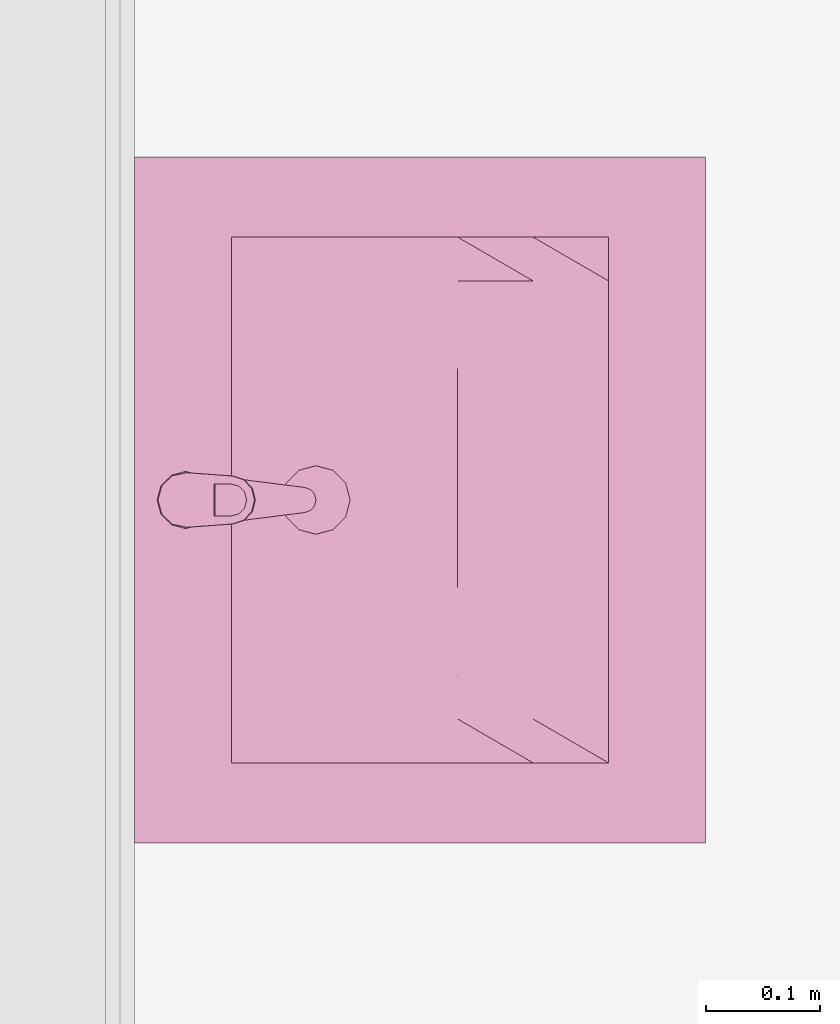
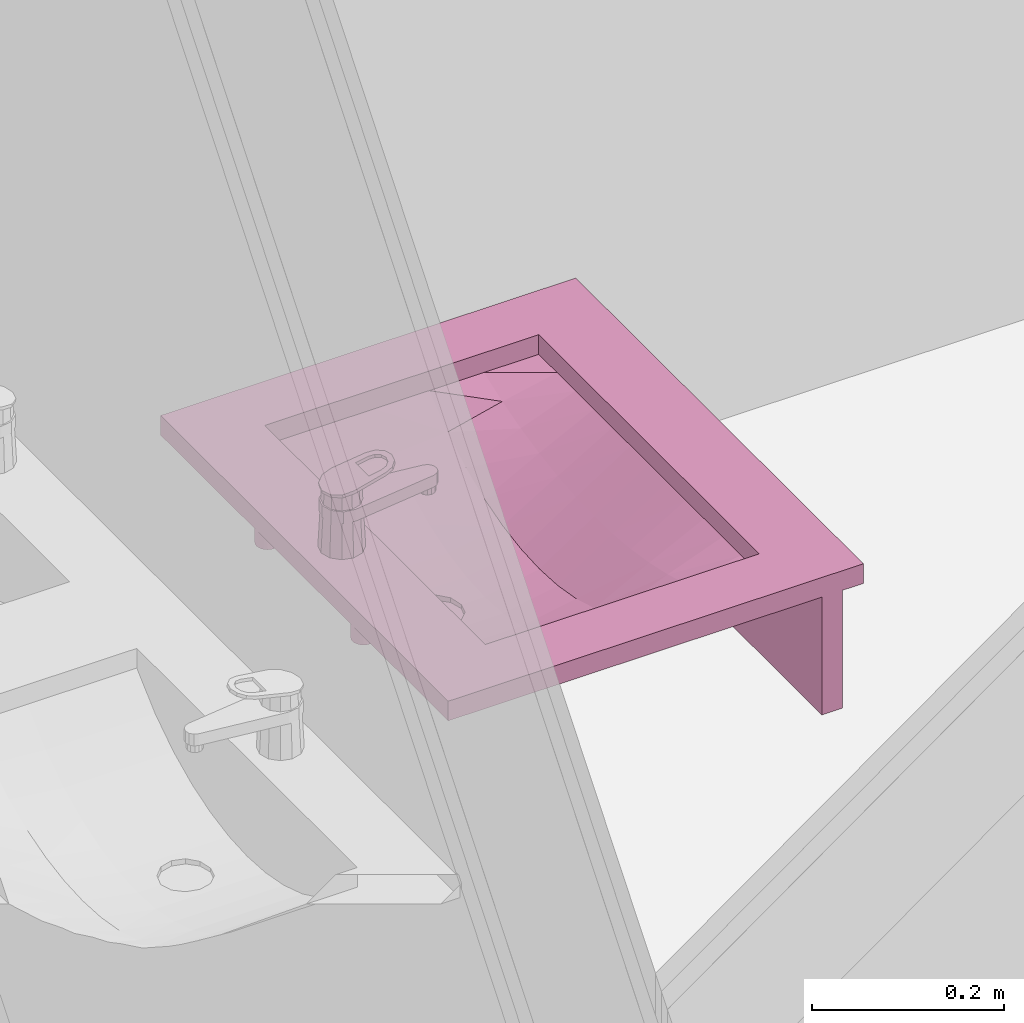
# One storey, part 53 of 54: 1 furnishing.
"""IFC2X3 building model written with IfcOpenShell, lengths in millimetres."""

from ifc_helpers import new_model, entity, si_unit, converted_unit, derived_unit, money_unit, direction, frame, origin_with_axes, place, context, subcontext, project, spatial, open_shell, faceted_brep, surface_model, source, transform, mapped, type_object, type_shapes, element, save


model = new_model("IFC2X3")

# Units and contexts
model_context = context("Model", 3, precision=0.01, world=origin_with_axes(), true_north=direction((0.0, 1.0)))
body_context = subcontext(model_context, "Body", "Model", "MODEL_VIEW")
ifc_project = project(units=[si_unit("LENGTHUNIT", "METRE", prefix="MILLI"), si_unit("AREAUNIT", "SQUARE_METRE"), si_unit("VOLUMEUNIT", "CUBIC_METRE"), converted_unit("PLANEANGLEUNIT", "DEGREE", entity("IfcPlaneAngleMeasure", 0.0174532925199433), si_unit("PLANEANGLEUNIT", "RADIAN"), dimensions=[0, 0, 0, 0, 0, 0, 0]), money_unit("EUR"), converted_unit("TIMEUNIT", "Year", entity("IfcTimeMeasure", 31557600.0), si_unit("TIMEUNIT", "SECOND"), dimensions=[0, 0, 1, 0, 0, 0, 0]), si_unit("MASSUNIT", "GRAM", prefix="KILO"), si_unit("THERMODYNAMICTEMPERATUREUNIT", "DEGREE_CELSIUS"), si_unit("LUMINOUSINTENSITYUNIT", "LUMEN"), si_unit("ENERGYUNIT", "JOULE", prefix="MEGA"), derived_unit("THERMALCONDUCTANCEUNIT", [(si_unit("POWERUNIT", "WATT"), 1), (si_unit("LENGTHUNIT", "METRE"), -1), (si_unit("THERMODYNAMICTEMPERATUREUNIT", "KELVIN"), -1)]), derived_unit("SPECIFICHEATCAPACITYUNIT", [(si_unit("ENERGYUNIT", "JOULE"), 1), (si_unit("MASSUNIT", "GRAM", prefix="KILO"), -1), (si_unit("THERMODYNAMICTEMPERATUREUNIT", "KELVIN"), -1)]), derived_unit("MASSDENSITYUNIT", [(si_unit("MASSUNIT", "GRAM", prefix="KILO"), 1), (si_unit("VOLUMEUNIT", "CUBIC_METRE"), -1)])], contexts=[model_context])

# Site, building, storey
site_placement = place(None, origin_with_axes())
site = spatial("IfcSite", under=ifc_project, at=site_placement, Name="<site naam>", CompositionType="ELEMENT")
building_placement = place(site_placement, origin_with_axes())
building = spatial("IfcBuilding", under=site, at=building_placement, Name="<Naam gebouw>", CompositionType="ELEMENT")
storey_placement = place(building_placement, frame((0.0, 0.0, 8500.0), z_axis=(0.0, 0.0, 1.0), x_axis=(1.0, 0.0, 0.0)))
storey = spatial("IfcBuildingStorey", under=building, at=storey_placement, Name="02 2e verdieping", CompositionType="ELEMENT", Elevation=8500.0)

# Furnishing
furnishing_element_type = type_object("IfcFurnishingElementType", Name="Wasbak meervoudig 27")
shared_shape = source(origin_with_axes(), body_context, "Body", "SurfaceModel", [
    surface_model("IfcShellBasedSurfaceModel", [(-100.0, -27.0, 875.0), (-103.494057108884, -26.53999865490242, 875.0), (-103.494057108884, -26.53999865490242, 855.0), (-100.0, -27.0, 855.0), (-106.75, -25.19134295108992, 875.0), (-106.75, -25.19134295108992, 855.0), (-96.50594289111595, -26.53999865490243, 875.0), (-96.50594289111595, -26.53999865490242, 855.0), (-109.5459415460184, -23.04594154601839, 875.0), (-109.5459415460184, -23.04594154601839, 855.0), (-93.24999999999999, -25.19134295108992, 875.0), (-93.24999999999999, -25.19134295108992, 855.0), (-111.6913429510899, -20.25, 875.0), (-111.6913429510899, -20.25, 855.0), (-90.4540584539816, -23.04594154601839, 875.0), (-90.4540584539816, -23.04594154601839, 855.0), (-113.0399986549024, -16.99405710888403, 875.0), (-113.0399986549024, -16.99405710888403, 855.0), (-88.30865704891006, -20.24999999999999, 875.0), (-88.30865704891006, -20.24999999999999, 855.0), (-113.5, -13.5, 875.0), (-113.5, -13.5, 855.0), (-86.96000134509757, -16.99405710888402, 875.0), (-86.96000134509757, -16.99405710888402, 855.0), (-113.0399986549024, -10.00594289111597, 875.0), (-113.0399986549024, -10.00594289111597, 855.0), (-86.5, -13.5, 875.0), (-86.5, -13.5, 855.0), (-111.6913429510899, -6.750000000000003, 875.0), (-111.6913429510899, -6.750000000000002, 855.0), (-86.96000134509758, -10.00594289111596, 875.0), (-86.96000134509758, -10.00594289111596, 855.0), (-109.5459415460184, -3.954058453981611, 875.0), (-109.5459415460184, -3.954058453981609, 855.0), (-88.30865704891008, -6.749999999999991, 875.0), (-88.30865704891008, -6.74999999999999, 855.0), (-106.75, -1.808657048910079, 875.0), (-106.75, -1.808657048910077, 855.0), (-90.45405845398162, -3.954058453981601, 875.0), (-90.45405845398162, -3.954058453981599, 855.0), (-103.494057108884, -0.4600013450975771, 875.0), (-103.494057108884, -0.4600013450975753, 855.0), (-93.25000000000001, -1.808657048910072, 875.0), (-93.25000000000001, -1.80865704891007, 855.0), (-100.0, 0.0, 875.0), (-100.0, 0.0, 855.0), (-96.50594289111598, -0.4600013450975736, 875.0), (-96.50594289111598, -0.4600013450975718, 855.0)], [open_shell([[[0, 1, 2, 3]], [[1, 4, 5, 2]], [[6, 0, 3, 7]], [[4, 8, 9, 5]], [[10, 6, 7, 11]], [[8, 12, 13, 9]], [[14, 10, 11, 15]], [[12, 16, 17, 13]], [[18, 14, 15, 19]], [[16, 20, 21, 17]], [[22, 18, 19, 23]], [[20, 24, 25, 21]], [[26, 22, 23, 27]], [[24, 28, 29, 25]], [[30, 26, 27, 31]], [[28, 32, 33, 29]], [[34, 30, 31, 35]], [[32, 36, 37, 33]], [[38, 34, 35, 39]], [[36, 40, 41, 37]], [[42, 38, 39, 43]], [[40, 44, 45, 41]], [[46, 42, 43, 47]], [[44, 46, 47, 45]]])]),
    surface_model("IfcShellBasedSurfaceModel", [(100.0, -27.0, 875.0), (96.50594289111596, -26.53999865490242, 875.0), (96.50594289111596, -26.53999865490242, 855.0), (100.0, -27.0, 855.0), (93.25, -25.19134295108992, 875.0), (93.25, -25.19134295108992, 855.0), (103.494057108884, -26.53999865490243, 875.0), (103.494057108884, -26.53999865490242, 855.0), (90.45405845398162, -23.04594154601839, 875.0), (90.45405845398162, -23.04594154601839, 855.0), (106.75, -25.19134295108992, 875.0), (106.75, -25.19134295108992, 855.0), (88.30865704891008, -20.25, 875.0), (88.30865704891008, -20.25, 855.0), (109.5459415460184, -23.04594154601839, 875.0), (109.5459415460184, -23.04594154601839, 855.0), (86.96000134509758, -16.99405710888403, 875.0), (86.96000134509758, -16.99405710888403, 855.0), (111.6913429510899, -20.24999999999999, 875.0), (111.6913429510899, -20.24999999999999, 855.0), (86.50000000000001, -13.5, 875.0), (86.50000000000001, -13.5, 855.0), (113.0399986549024, -16.99405710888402, 875.0), (113.0399986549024, -16.99405710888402, 855.0), (86.96000134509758, -10.00594289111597, 875.0), (86.96000134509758, -10.00594289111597, 855.0), (113.5, -13.5, 875.0), (113.5, -13.5, 855.0), (88.30865704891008, -6.750000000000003, 875.0), (88.30865704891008, -6.750000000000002, 855.0), (113.0399986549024, -10.00594289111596, 875.0), (113.0399986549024, -10.00594289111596, 855.0), (90.4540584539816, -3.954058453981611, 875.0), (90.4540584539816, -3.954058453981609, 855.0), (111.6913429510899, -6.749999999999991, 875.0), (111.6913429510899, -6.74999999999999, 855.0), (93.25, -1.808657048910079, 875.0), (93.25, -1.808657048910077, 855.0), (109.5459415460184, -3.954058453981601, 875.0), (109.5459415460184, -3.954058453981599, 855.0), (96.50594289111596, -0.4600013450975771, 875.0), (96.50594289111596, -0.4600013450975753, 855.0), (106.75, -1.808657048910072, 875.0), (106.75, -1.80865704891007, 855.0), (100.0, 0.0, 875.0), (100.0, 0.0, 855.0), (103.494057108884, -0.4600013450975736, 875.0), (103.494057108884, -0.4600013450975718, 855.0)], [open_shell([[[0, 1, 2, 3]], [[1, 4, 5, 2]], [[6, 0, 3, 7]], [[4, 8, 9, 5]], [[10, 6, 7, 11]], [[8, 12, 13, 9]], [[14, 10, 11, 15]], [[12, 16, 17, 13]], [[18, 14, 15, 19]], [[16, 20, 21, 17]], [[22, 18, 19, 23]], [[20, 24, 25, 21]], [[26, 22, 23, 27]], [[24, 28, 29, 25]], [[30, 26, 27, 31]], [[28, 32, 33, 29]], [[34, 30, 31, 35]], [[32, 36, 37, 33]], [[38, 34, 35, 39]], [[36, 40, 41, 37]], [[42, 38, 39, 43]], [[40, 44, 45, 41]], [[46, 42, 43, 47]], [[44, 46, 47, 45]]])]),
    surface_model("IfcShellBasedSurfaceModel", [(0.0, -179.90845, 770.0), (-5.435199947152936, -179.1928923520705, 770.0), (-5.435199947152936, -179.1928923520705, 750.0), (0.0, -179.90845, 750.0), (-10.5, -177.0949834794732, 770.0), (-10.5, -177.0949834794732, 750.0), (5.435199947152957, -179.1928923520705, 770.0), (5.435199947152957, -179.1928923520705, 750.0), (-14.8492424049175, -173.7576924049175, 770.0), (-14.8492424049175, -173.7576924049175, 750.0), (10.50000000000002, -177.0949834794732, 770.0), (10.50000000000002, -177.0949834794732, 750.0), (-18.18653347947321, -169.40845, 770.0), (-18.18653347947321, -169.40845, 750.0), (14.84924240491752, -173.7576924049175, 770.0), (14.84924240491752, -173.7576924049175, 750.0), (-20.28444235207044, -164.343649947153, 770.0), (-20.28444235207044, -164.343649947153, 750.0), (18.18653347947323, -169.40845, 770.0), (18.18653347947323, -169.40845, 750.0), (-21.0, -158.90845, 770.0), (-21.0, -158.90845, 750.0), (20.28444235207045, -164.3436499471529, 770.0), (20.28444235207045, -164.3436499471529, 750.0), (-20.28444235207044, -153.4732500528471, 770.0), (-20.28444235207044, -153.4732500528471, 750.0), (21.00000000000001, -158.90845, 770.0), (21.00000000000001, -158.90845, 750.0), (-18.18653347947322, -148.40845, 770.0), (-18.18653347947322, -148.40845, 750.0), (20.28444235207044, -153.4732500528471, 770.0), (20.28444235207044, -153.4732500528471, 750.0), (-14.84924240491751, -144.0592075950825, 770.0), (-14.84924240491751, -144.0592075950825, 750.0), (18.18653347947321, -148.40845, 770.0), (18.18653347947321, -148.40845, 750.0), (-10.50000000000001, -140.7219165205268, 770.0), (-10.50000000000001, -140.7219165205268, 750.0), (14.8492424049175, -144.0592075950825, 770.0), (14.8492424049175, -144.0592075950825, 750.0), (-5.435199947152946, -138.6240076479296, 770.0), (-5.435199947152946, -138.6240076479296, 750.0), (10.49999999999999, -140.7219165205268, 770.0), (10.49999999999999, -140.7219165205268, 750.0), (0.0, -137.90845, 770.0), (0.0, -137.90845, 750.0), (5.435199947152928, -138.6240076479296, 770.0), (5.435199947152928, -138.6240076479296, 750.0)], [open_shell([[[0, 1, 2, 3]], [[1, 4, 5, 2]], [[6, 0, 3, 7]], [[4, 8, 9, 5]], [[10, 6, 7, 11]], [[8, 12, 13, 9]], [[14, 10, 11, 15]], [[12, 16, 17, 13]], [[18, 14, 15, 19]], [[16, 20, 21, 17]], [[22, 18, 19, 23]], [[20, 24, 25, 21]], [[26, 22, 23, 27]], [[24, 28, 29, 25]], [[30, 26, 27, 31]], [[28, 32, 33, 29]], [[34, 30, 31, 35]], [[32, 36, 37, 33]], [[38, 34, 35, 39]], [[36, 40, 41, 37]], [[42, 38, 39, 43]], [[40, 44, 45, 41]], [[46, 42, 43, 47]], [[44, 46, 47, 45]]])]),
    faceted_brep([(-300.0, 0.0, 875.0), (300.0, 0.0, 875.0), (300.0, -500.0, 875.0), (-300.0, -500.0, 875.0), (-230.0, -415.0000000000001, 875.0), (230.0, -415.0000000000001, 875.0), (230.0, -84.99999999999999, 875.0), (-230.0, -84.99999999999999, 875.0), (-300.0, 0.0, 900.0), (300.0, 0.0, 900.0), (300.0, -500.0, 900.0), (-300.0, -500.0, 900.0), (-230.0, -415.0000000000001, 900.0), (230.0, -415.0000000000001, 900.0), (230.0, -84.99999999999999, 900.0), (-230.0, -84.99999999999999, 900.0)], [[[0, 1, 2, 3], [4, 5, 6, 7]], [[0, 8, 9, 1]], [[1, 9, 10, 2]], [[2, 10, 11, 3]], [[3, 11, 8, 0]], [[12, 13, 5, 4]], [[13, 14, 6, 5]], [[14, 15, 7, 6]], [[15, 12, 4, 7]], [[10, 9, 8, 11], [12, 15, 14, 13]]]),
    faceted_brep([(-300.0, -475.0, 725.0000000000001), (300.0, -475.0, 725.0000000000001), (300.0, -475.0, 875.0000000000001), (-300.0, -475.0, 875.0000000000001), (-300.0, -450.0, 725.0000000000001), (300.0, -450.0, 725.0000000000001), (300.0, -450.0, 875.0000000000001), (-300.0, -450.0, 875.0000000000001)], [[[0, 1, 2, 3]], [[0, 4, 5, 1]], [[1, 5, 6, 2]], [[3, 2, 6, 7]], [[4, 0, 3, 7]], [[5, 4, 7, 6]]]),
    surface_model("IfcShellBasedSurfaceModel", [(0.0, -188.90845, 775.0), (-15.00000000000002, -184.8892121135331, 775.9175701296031), (-25.98076211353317, -173.90845, 776.58927808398), (-30.0, -158.90845, 776.8351402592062), (-27.88093720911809, -151.0, 776.7055143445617), (-38.33333333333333, -151.0, 777.3449014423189), (-38.33333333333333, -217.0, 777.3449014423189), (0.0, -217.0, 775.0), (-14.99999999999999, -132.9276878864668, 775.9175701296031), (0.0, -128.90845, 775.0), (0.0, -85.00000000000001, 775.0), (-38.33333333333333, -85.00000000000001, 777.3449014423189), (-25.98076211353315, -143.90845, 776.58927808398), (-76.66666666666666, -151.0, 784.4877507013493), (-76.66666666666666, -217.0, 784.4877507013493), (-38.33333333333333, -283.0000000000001, 789.6013200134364), (27.88093720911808, -151.0, 776.7055143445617), (30.0, -158.90845, 776.8351402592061), (25.98076211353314, -173.90845, 776.58927808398), (14.99999999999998, -184.8892121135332, 775.9175701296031), (38.33333333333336, -217.0, 777.3449014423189), (38.33333333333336, -151.0, 777.3449014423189), (15.00000000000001, -132.9276878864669, 775.9175701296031), (25.98076211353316, -143.90845, 776.58927808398), (38.33333333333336, -85.00000000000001, 777.3449014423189), (115.0, -85.00000000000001, 796.7795702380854), (153.3333333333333, -85.00000000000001, 814.9109636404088), (191.6666666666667, -85.00000000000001, 840.1525739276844), (230.0000000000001, -85.00000000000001, 875.0), (-230.0, -85.00000000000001, 875.0), (-191.6666666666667, -85.00000000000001, 840.1525739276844), (-153.3333333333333, -85.00000000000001, 814.9109636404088), (-115.0, -85.00000000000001, 796.7795702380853), (-76.66666666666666, -85.00000000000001, 784.4877507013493), (76.66666666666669, -85.00000000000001, 784.4877507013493), (-115.0, -151.0, 796.7795702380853), (-115.0, -217.0, 796.7795702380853), (-76.66666666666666, -283.0000000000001, 796.0730509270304), (0.0, -283.0000000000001, 787.4709792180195), (76.66666666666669, -217.0, 784.4877507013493), (76.66666666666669, -151.0, 784.4877507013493), (153.3333333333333, -151.0, 814.9109636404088), (115.0, -151.0, 796.7795702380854), (191.6666666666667, -151.0, 840.1525739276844), (230.0000000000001, -151.0, 875.0), (-191.6666666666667, -151.0, 840.1525739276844), (-230.0, -151.0, 875.0), (-153.3333333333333, -151.0, 814.9109636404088), (-153.3333333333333, -217.0, 814.9109636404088), (-115.0, -283.0000000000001, 807.14440558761), (-38.33333333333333, -349.0000000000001, 832.6100259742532), (-76.66666666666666, -349.0000000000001, 836.1306624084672), (38.33333333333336, -283.0000000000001, 789.6013200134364), (115.0, -217.0, 796.7795702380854), (153.3333333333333, -217.0, 814.9109636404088), (191.6666666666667, -217.0, 840.1525739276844), (230.0000000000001, -217.0, 875.0), (230.0000000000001, -283.0000000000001, 875.0), (230.0000000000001, -349.0000000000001, 875.0), (230.0000000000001, -415.0000000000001, 875.0), (-230.0, -283.0000000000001, 875.0), (-230.0, -217.0, 875.0), (-230.0, -415.0000000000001, 875.0), (-230.0, -349.0000000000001, 875.0), (-191.6666666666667, -217.0, 840.1525739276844), (-153.3333333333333, -283.0000000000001, 823.3076267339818), (-115.0, -349.0000000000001, 842.0429293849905), (0.0, -349.0000000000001, 831.4408595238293), (76.66666666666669, -283.0000000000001, 796.0730509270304), (115.0, -283.0000000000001, 807.14440558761), (153.3333333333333, -283.0000000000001, 823.3076267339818), (191.6666666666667, -283.0000000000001, 845.4187372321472), (191.6666666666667, -349.0000000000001, 861.354147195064), (191.6666666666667, -415.0000000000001, 875.0), (-191.6666666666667, -349.0000000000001, 861.354147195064), (-191.6666666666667, -283.0000000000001, 845.4187372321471), (-153.3333333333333, -349.0000000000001, 850.416360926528), (-38.33333333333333, -415.0000000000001, 875.0), (-76.66666666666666, -415.0000000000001, 875.0), (-115.0, -415.0000000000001, 875.0), (38.33333333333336, -349.0000000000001, 832.6100259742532), (-153.3333333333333, -415.0000000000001, 875.0), (-191.6666666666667, -415.0000000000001, 875.0), (153.3333333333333, -415.0000000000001, 875.0), (115.0, -415.0000000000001, 875.0), (76.66666666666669, -415.0000000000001, 875.0), (38.33333333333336, -415.0000000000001, 875.0), (0.0, -415.0000000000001, 875.0), (76.66666666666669, -349.0000000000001, 836.1306624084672), (115.0, -349.0000000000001, 842.0429293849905), (153.3333333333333, -349.0000000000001, 850.416360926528)], [open_shell([[[0, 1, 2, 3, 4, 5, 6, 7]], [[8, 9, 10, 11, 5, 4, 12]], [[6, 5, 13, 14]], [[15, 7, 6]], [[16, 17, 18, 19, 0, 7, 20, 21]], [[9, 22, 23, 16, 21, 24, 10]], [[25, 26, 27, 28, 29, 30, 31, 32, 33, 11, 10, 24, 34]], [[5, 11, 33, 13]], [[14, 13, 35, 36]], [[37, 6, 14]], [[15, 38, 7]], [[37, 15, 6]], [[38, 20, 7]], [[39, 40, 21, 20]], [[40, 34, 24, 21]], [[41, 26, 25, 42]], [[43, 27, 26, 41]], [[44, 28, 27, 43]], [[45, 30, 29, 46]], [[47, 31, 30, 45]], [[35, 32, 31, 47]], [[13, 33, 32, 35]], [[42, 25, 34, 40]], [[36, 35, 47, 48]], [[49, 14, 36]], [[49, 37, 14]], [[50, 38, 15]], [[51, 15, 37]], [[38, 52, 20]], [[53, 42, 40, 39]], [[52, 39, 20]], [[54, 41, 42, 53]], [[55, 43, 41, 54]], [[56, 57, 58, 59, 28, 44]], [[56, 44, 43, 55]], [[60, 61, 46, 29, 62, 63]], [[64, 45, 46, 61]], [[48, 47, 45, 64]], [[65, 36, 48]], [[65, 49, 36]], [[66, 37, 49]], [[50, 67, 38]], [[51, 50, 15]], [[66, 51, 37]], [[67, 52, 38]], [[68, 53, 39]], [[52, 68, 39]], [[69, 54, 53]], [[70, 55, 54]], [[71, 57, 56]], [[72, 58, 57]], [[73, 59, 58]], [[71, 56, 55]], [[60, 64, 61]], [[62, 74, 63]], [[63, 75, 60]], [[75, 48, 64]], [[75, 65, 48]], [[76, 49, 65]], [[76, 66, 49]], [[77, 67, 50]], [[78, 50, 51]], [[79, 51, 66]], [[67, 80, 52]], [[68, 69, 53]], [[80, 68, 52]], [[69, 70, 54]], [[70, 71, 55]], [[72, 57, 71]], [[73, 58, 72]], [[79, 81, 82, 62, 59, 73, 83, 84, 85, 86, 87, 77, 78]], [[60, 75, 64]], [[62, 82, 74]], [[63, 74, 75]], [[74, 65, 75]], [[74, 76, 65]], [[81, 66, 76]], [[77, 87, 67]], [[78, 77, 50]], [[79, 78, 51]], [[81, 79, 66]], [[87, 80, 67]], [[88, 69, 68]], [[80, 88, 68]], [[89, 70, 69]], [[90, 71, 70]], [[90, 72, 71]], [[83, 73, 72]], [[82, 81, 76]], [[84, 83, 90]], [[85, 84, 89]], [[86, 85, 88]], [[87, 86, 80]], [[82, 76, 74]], [[88, 89, 69]], [[86, 88, 80]], [[89, 90, 70]], [[83, 72, 90]], [[84, 90, 89]], [[85, 89, 88]]])]),
    surface_model("IfcShellBasedSurfaceModel", [(30.0, -158.90845, 776.8351402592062), (25.98076211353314, -173.90845, 776.58927808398), (25.98076211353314, -173.90845, 770.0), (30.0, -158.90845, 770.0), (14.99999999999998, -184.8892121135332, 775.9175701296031), (14.99999999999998, -184.8892121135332, 770.0), (0.0, -128.90845, 770.0), (15.00000000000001, -132.9276878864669, 770.0), (25.98076211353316, -143.90845, 770.0), (0.0, -188.90845, 770.0), (-15.00000000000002, -184.8892121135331, 770.0), (-25.98076211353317, -173.90845, 770.0), (-30.0, -158.90845, 770.0), (-25.98076211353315, -143.90845, 770.0), (-14.99999999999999, -132.9276878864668, 770.0), (25.98076211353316, -143.90845, 776.58927808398), (0.0, -188.90845, 775.0), (0.0, -128.90845, 775.0), (15.00000000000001, -132.9276878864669, 775.9175701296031), (-15.00000000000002, -184.8892121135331, 775.9175701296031), (-25.98076211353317, -173.90845, 776.58927808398), (-30.0, -158.90845, 776.8351402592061), (-25.98076211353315, -143.90845, 776.58927808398), (-14.99999999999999, -132.9276878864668, 775.9175701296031)], [open_shell([[[0, 1, 2, 3]], [[1, 4, 5, 2]], [[6, 7, 8, 3, 2, 5, 9, 10, 11, 12, 13, 14]], [[15, 0, 3, 8]], [[4, 16, 9, 5]], [[17, 18, 7, 6]], [[18, 15, 8, 7]], [[16, 19, 10, 9]], [[19, 20, 11, 10]], [[20, 21, 12, 11]], [[21, 22, 13, 12]], [[22, 23, 14, 13]], [[23, 17, 6, 14]]])]),
    faceted_brep([(12.50000000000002, -23.34936490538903, 900.0), (0.0, -19.99999999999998, 900.0), (0.0, -23.79807692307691, 975.9615384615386), (10.587322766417, -26.66221905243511, 976.507089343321), (21.65063509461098, -32.5, 900.0), (25.0, -45.00000000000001, 900.0), (21.65063509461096, -57.5, 900.0), (12.49999999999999, -66.65063509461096, 900.0), (0.0, -69.99999999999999, 900.0), (-12.50000000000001, -66.65063509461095, 900.0), (-21.65063509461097, -57.49999999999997, 900.0), (-25.0, -44.99999999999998, 900.0), (-21.65063509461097, -32.49999999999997, 900.0), (-12.5, -23.34936490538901, 900.0), (-10.58732276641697, -26.6622190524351, 976.507089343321), (-18.27355038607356, -34.44976076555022, 977.9904306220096), (-21.0, -44.99999999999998, 980.0), (-18.10034137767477, -55.45023696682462, 981.9905213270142), (-10.41410590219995, -63.03776053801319, 983.4357639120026), (0.0, -65.80188679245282, 983.9622641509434), (10.41410590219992, -63.0377605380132, 983.4357639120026), (18.10034137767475, -55.45023696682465, 981.9905213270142), (21.0, -45.00000000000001, 980.0), (18.27355038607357, -34.44976076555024, 977.9904306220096)], [[[0, 1, 2, 3]], [[0, 4, 5, 6, 7, 8, 9, 10, 11, 12, 13, 1]], [[1, 13, 14, 2]], [[3, 2, 14, 15, 16, 17, 18, 19, 20, 21, 22, 23]], [[4, 0, 3, 23]], [[5, 4, 23, 22]], [[6, 5, 22, 21]], [[7, 6, 21, 20]], [[8, 7, 20, 19]], [[9, 8, 19, 18]], [[10, 9, 18, 17]], [[11, 10, 17, 16]], [[12, 11, 16, 15]], [[13, 12, 15, 14]]]),
    faceted_brep([(9.000000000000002, -148.0, 935.0), (7.794228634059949, -143.5, 935.0), (7.794228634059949, -143.5, 945.0000000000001), (9.000000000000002, -148.0, 945.0000000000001), (7.794228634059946, -152.5, 935.0), (4.499999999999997, -155.7942286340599, 935.0), (0.0, -157.0, 935.0), (-4.500000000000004, -155.7942286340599, 935.0), (-7.794228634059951, -152.5, 935.0), (-9.000000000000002, -148.0, 935.0), (-7.794228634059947, -143.5, 935.0), (-4.499999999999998, -140.20577136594, 935.0), (0.0, -139.0, 935.0), (4.500000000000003, -140.20577136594, 935.0), (4.500000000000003, -140.20577136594, 945.0000000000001), (0.0, -139.0, 945.0000000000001), (-4.499999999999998, -140.20577136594, 945.0000000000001), (-7.794228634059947, -143.5, 945.0000000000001), (-9.000000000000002, -148.0, 945.0000000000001), (-7.794228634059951, -152.5, 945.0000000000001), (-4.500000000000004, -155.7942286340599, 945.0000000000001), (0.0, -157.0, 945.0000000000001), (4.499999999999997, -155.7942286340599, 945.0000000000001), (7.794228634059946, -152.5, 945.0000000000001)], [[[0, 1, 2, 3]], [[0, 4, 5, 6, 7, 8, 9, 10, 11, 12, 13, 1]], [[1, 13, 14, 2]], [[3, 2, 14, 15, 16, 17, 18, 19, 20, 21, 22, 23]], [[4, 0, 3, 23]], [[5, 4, 23, 22]], [[6, 5, 22, 21]], [[7, 6, 21, 20]], [[8, 7, 20, 19]], [[9, 8, 19, 18]], [[10, 9, 18, 17]], [[11, 10, 17, 16]], [[12, 11, 16, 15]], [[13, 12, 15, 14]]]),
    faceted_brep([(-12.87171762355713, -24.74369617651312, 960.0000000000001), (-21.72780530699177, -34.80679463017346, 960.0000000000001), (-23.8054, -48.04989999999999, 960.0000000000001), (-10.9119908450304, -149.3883719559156, 960.0000000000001), (-9.02887546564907, -154.2831941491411, 960.0000000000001), (-5.093324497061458, -157.7497264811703, 960.0000000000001), (3.626798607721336e-05, -158.9999600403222, 960.0000000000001), (5.093388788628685, -157.7496928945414, 960.0000000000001), (9.02891689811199, -154.2831346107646, 960.0000000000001), (10.912, -149.3883, 960.0000000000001), (23.80539974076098, -48.0499020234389, 960.0000000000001), (21.72780617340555, -34.80679647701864, 960.0000000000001), (12.87171934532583, -24.74369727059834, 960.0000000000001), (1.019988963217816e-06, -21.00002168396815, 960.0000000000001), (11.00000000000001, -25.94744111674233, 960.0000000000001), (19.05255888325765, -33.99999999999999, 960.0000000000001), (22.0, -44.99999999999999, 960.0000000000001), (19.05255888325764, -56.0, 960.0000000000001), (10.99999999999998, -64.05255888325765, 960.0000000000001), (0.0, -66.99999999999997, 960.0000000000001), (-11.00000000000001, -64.05255888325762, 960.0000000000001), (-19.05255888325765, -55.99999999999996, 960.0000000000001), (-22.0, -44.99999999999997, 960.0000000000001), (-19.05255888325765, -33.99999999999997, 960.0000000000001), (-10.99999999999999, -25.94744111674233, 960.0000000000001), (0.0, -22.99999999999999, 960.0000000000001), (-21.72780530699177, -34.80679463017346, 945.0000000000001), (-12.87171762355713, -24.74369617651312, 945.0000000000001), (-23.8054, -48.04989999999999, 945.0000000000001), (-10.9119908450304, -149.3883719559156, 945.0000000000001), (-9.02887546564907, -154.2831941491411, 945.0000000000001), (-5.093324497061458, -157.7497264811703, 945.0000000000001), (3.626798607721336e-05, -158.9999600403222, 945.0000000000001), (5.093388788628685, -157.7496928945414, 945.0000000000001), (9.02891689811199, -154.2831346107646, 945.0000000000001), (10.912, -149.3883, 945.0000000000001), (23.80539974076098, -48.0499020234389, 945.0000000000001), (21.72780617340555, -34.80679647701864, 945.0000000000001), (12.87171934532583, -24.74369727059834, 945.0000000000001), (1.019988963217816e-06, -21.00002168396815, 945.0000000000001), (11.37500000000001, -25.29792206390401, 945.0000000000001), (19.70207793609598, -33.62499999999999, 945.0000000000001), (22.75, -44.99999999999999, 945.0000000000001), (19.70207793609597, -56.37500000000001, 945.0000000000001), (11.37499999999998, -64.70207793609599, 945.0000000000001), (0.0, -67.74999999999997, 945.0000000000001), (-11.37500000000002, -64.70207793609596, 945.0000000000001), (-19.70207793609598, -56.37499999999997, 945.0000000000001), (-22.75, -44.99999999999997, 945.0000000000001), (-19.70207793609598, -33.62499999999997, 945.0000000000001), (-11.37499999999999, -25.29792206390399, 945.0000000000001), (0.0, -22.24999999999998, 945.0000000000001)], [[[0, 1, 2, 3, 4, 5, 6, 7, 8, 9, 10, 11, 12, 13], [14, 15, 16, 17, 18, 19, 20, 21, 22, 23, 24, 25]], [[26, 1, 0, 27]], [[28, 2, 1, 26]], [[29, 3, 2, 28]], [[30, 4, 3, 29]], [[31, 5, 4, 30]], [[32, 6, 5, 31]], [[33, 7, 6, 32]], [[34, 8, 7, 33]], [[35, 9, 8, 34]], [[36, 10, 9, 35]], [[37, 11, 10, 36]], [[38, 12, 11, 37]], [[39, 13, 12, 38]], [[27, 0, 13, 39]], [[40, 41, 15, 14]], [[41, 42, 16, 15]], [[42, 43, 17, 16]], [[43, 44, 18, 17]], [[44, 45, 19, 18]], [[20, 19, 45, 46]], [[21, 20, 46, 47]], [[22, 21, 47, 48]], [[23, 22, 48, 49]], [[24, 23, 49, 50]], [[50, 51, 25, 24]], [[51, 40, 14, 25]], [[32, 31, 30, 29, 28, 26, 27, 39, 38, 37, 36, 35, 34, 33], [44, 43, 42, 41, 40, 51, 50, 49, 48, 47, 46, 45]]]),
    faceted_brep([(23.893, -46.69256934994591, 980.3223941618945), (21.29642141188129, -34.2252811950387, 977.9476726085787), (21.29642141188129, -33.47683276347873, 981.8770268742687), (23.893, -45.94412091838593, 984.2517484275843), (20.94593649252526, -86.83670229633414, 987.9688956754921), (17.66313911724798, -96.51436651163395, 989.8122602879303), (10.06143529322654, -103.46374609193, 991.135951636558), (-0.0004426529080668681, -105.9856119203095, 991.6163070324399), (-10.06221236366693, -103.4633294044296, 991.1358722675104), (-17.66361794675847, -96.51363502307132, 989.8121209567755), (-20.946, -86.83583486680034, 987.9687304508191), (-23.89302047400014, -46.69229042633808, 980.3223410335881), (-21.29629106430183, -34.22503258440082, 977.9476252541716), (-12.4716815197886, -24.90880255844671, 976.173105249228), (0.0001423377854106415, -21.46803549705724, 975.5177210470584), (12.47192457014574, -24.90894815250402, 976.1731329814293), (14.0, -70.54080272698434, 984.8649148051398), (-14.0, -70.54080272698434, 984.8649148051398), (-14.0, -85.3564329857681, 987.6869396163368), (-12.12435565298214, -92.23280295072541, 988.9967243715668), (-7.000000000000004, -97.26665513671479, 989.9555533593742), (0.0, -99.10917291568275, 990.3065091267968), (6.999999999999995, -97.2666551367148, 989.9555533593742), (12.12435565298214, -92.23280295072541, 988.9967243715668), (14.0, -85.35643298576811, 987.6869396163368), (12.47192457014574, -24.16049972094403, 980.1024872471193), (0.0001423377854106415, -20.71958706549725, 979.4470753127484), (-12.4716815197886, -24.16035412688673, 980.1024595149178), (-21.29629106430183, -33.47658415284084, 981.8769795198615), (-23.89302047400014, -45.94384199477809, 984.2516952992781), (-20.946, -86.08738643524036, 991.898084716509), (-17.66361794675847, -95.76518659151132, 993.7414752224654), (-10.06221236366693, -102.7148809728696, 995.0652265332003), (-0.0004426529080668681, -105.2371634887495, 995.5456612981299), (10.06143529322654, -102.71529766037, 995.0653059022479), (17.66313911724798, -95.76591808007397, 993.7416145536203), (20.94593649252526, -86.08825386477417, 991.8982499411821), (14.0, -69.79235429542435, 988.7942690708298), (14.0, -84.60798455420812, 991.6162938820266), (12.12435565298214, -91.48435451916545, 992.9260786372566), (6.999999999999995, -96.51820670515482, 993.8849076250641), (0.0, -98.36072448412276, 994.2358633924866), (-7.000000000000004, -96.51820670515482, 993.8849076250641), (-12.12435565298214, -91.48435451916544, 992.9260786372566), (-14.0, -84.60798455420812, 991.6162938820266), (-14.0, -69.79235429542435, 988.7942690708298)], [[[0, 1, 2, 3]], [[0, 4, 5, 6, 7, 8, 9, 10, 11, 12, 13, 14, 15, 1], [16, 17, 18, 19, 20, 21, 22, 23, 24]], [[1, 15, 25, 2]], [[3, 2, 25, 26, 27, 28, 29, 30, 31, 32, 33, 34, 35, 36], [37, 38, 39, 40, 41, 42, 43, 44, 45]], [[4, 0, 3, 36]], [[5, 4, 36, 35]], [[6, 5, 35, 34]], [[7, 6, 34, 33]], [[8, 7, 33, 32]], [[9, 8, 32, 31]], [[10, 9, 31, 30]], [[11, 10, 30, 29]], [[12, 11, 29, 28]], [[13, 12, 28, 27]], [[14, 13, 27, 26]], [[15, 14, 26, 25]], [[17, 16, 37, 45]], [[18, 17, 45, 44]], [[19, 18, 44, 43]], [[20, 19, 43, 42]], [[21, 20, 42, 41]], [[22, 21, 41, 40]], [[23, 22, 40, 39]], [[24, 23, 39, 38]], [[16, 24, 38, 37]]]),
])
type_shapes(furnishing_element_type, [shared_shape])
furnishing_placement = place(storey_placement, frame((15024.99338189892, 13007.0999666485, 0.0), z_axis=(0.0, 0.0, 1.0), x_axis=(0.0, 1.0, 0.0)))
element("IfcFurnishingElement", 1, at=furnishing_placement, inside=storey, type_object=furnishing_element_type, Name="74_Wasmachine_Lege", context=body_context, shape_type="MappedRepresentation", body=[
    mapped(shared_shape, transform((0.0, 0.0, 0.0))),
])

save(model, "model.ifc")
